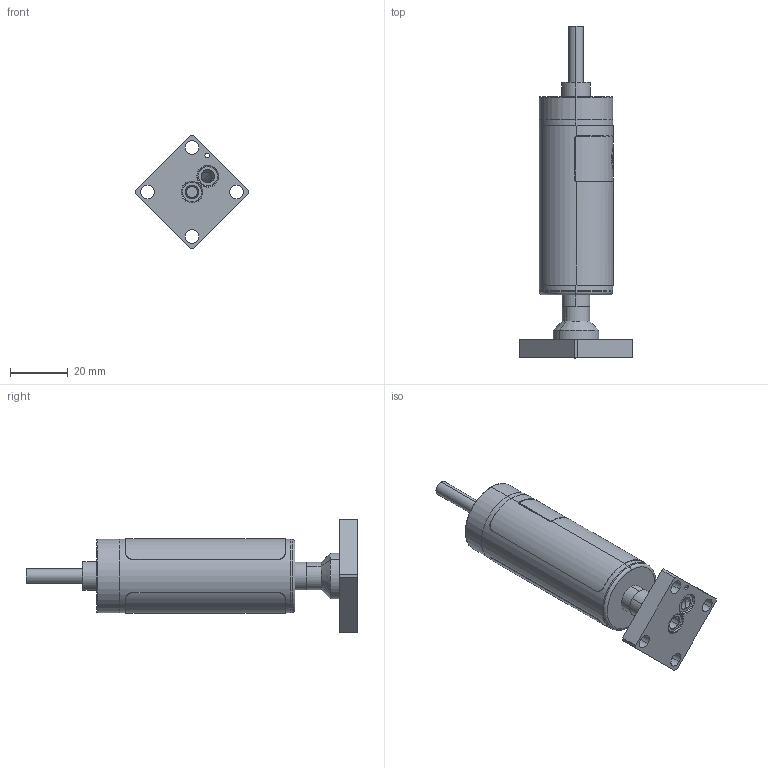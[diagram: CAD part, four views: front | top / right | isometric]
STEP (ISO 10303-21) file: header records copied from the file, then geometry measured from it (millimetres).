
FILE_DESCRIPTION (( 'STEP AP214' ), '1' );
FILE_NAME ('GSD-XXXXXX-P-XXX-CS.STEP', '2025-06-23T13:47:24', ( '' ), ( '' ), 'SwSTEP 2.0', 'SolidWorks 2023', '' );
FILE_SCHEMA (( 'AUTOMOTIVE_DESIGN' ));
Length unit declared in the file: inch
Products named in the file (4): L and P_GIx; 333127(1.125 CS); GSD-XXXXXX-P-XXX-CS; GSx Body_Default No Cable
Assembly tree (3 placements, depth 2):
  GSD-XXXXXX-P-XXX-CS
    GSx Body_Default No Cable
    L and P_GIx
    333127(1.125 CS)
Bounding box: 39.33 x 114.68 x 39.33 mm (x, y, z)
Volume: 14476.1 mm3; surface area: 17280.6 mm2
Topology: 6 solids, 6 shells, 211 faces, 519 edges, 334 vertices
Faces by surface type: cylinder 75, plane 70, bspline 40, cone 14, torus 12
Entity records: 10079 total; most frequent: CARTESIAN_POINT 5120, ORIENTED_EDGE 1030, DIRECTION 930, EDGE_CURVE 515, AXIS2_PLACEMENT_3D 380, VERTEX_POINT 334, EDGE_LOOP 249, ADVANCED_FACE 211
